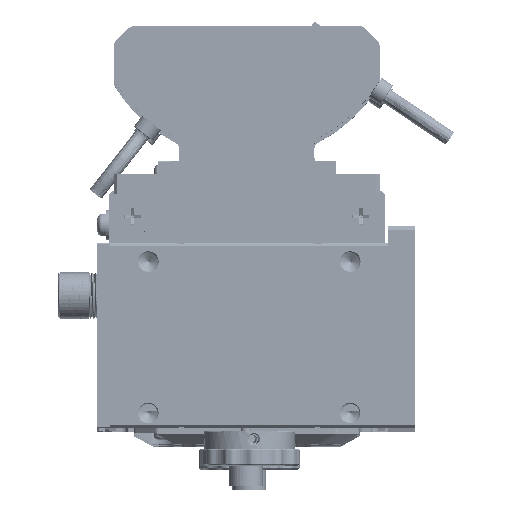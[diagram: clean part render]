
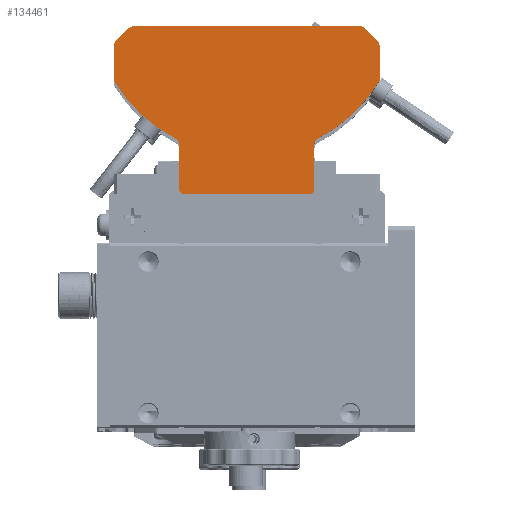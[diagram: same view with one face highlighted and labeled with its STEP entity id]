
A CAD part, top view. The second image highlights one B-rep face of the part: STEP entity #134461.
In plain terms, the highlighted planar face has unit normal (0, 0, 1) as drawn and (0, 1, 0) by its records, which use the part's own axes.
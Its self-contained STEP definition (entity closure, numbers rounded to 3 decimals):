
#132566=CARTESIAN_POINT('',(36.5,6.,18.757));
#132567=DIRECTION('',(0.,-1.,0.));
#132568=DIRECTION('',(1.,0.,0.));
#132569=AXIS2_PLACEMENT_3D('',#132566,#132567,#132568);
#132571=DIRECTION('',(-0.707,0.,0.707));
#132572=VECTOR('',#132571,4.586);
#132573=CARTESIAN_POINT('',(38.621,6.,20.879));
#132574=LINE('',#132573,#132572);
#132575=CARTESIAN_POINT('',(33.257,6.,22.));
#132576=DIRECTION('',(0.,-1.,0.));
#132577=DIRECTION('',(0.707,0.,0.707));
#132578=AXIS2_PLACEMENT_3D('',#132575,#132576,#132577);
#132580=CARTESIAN_POINT('',(-33.257,6.,22.));
#132581=DIRECTION('',(0.,-1.,0.));
#132582=DIRECTION('',(0.,0.,1.));
#132583=AXIS2_PLACEMENT_3D('',#132580,#132581,#132582);
#132585=DIRECTION('',(-0.707,0.,-0.707));
#132586=VECTOR('',#132585,4.586);
#132587=CARTESIAN_POINT('',(-35.379,6.,24.121));
#132588=LINE('',#132587,#132586);
#132589=CARTESIAN_POINT('',(-36.5,6.,18.757));
#132590=DIRECTION('',(0.,-1.,0.));
#132591=DIRECTION('',(-0.707,0.,0.707));
#132592=AXIS2_PLACEMENT_3D('',#132589,#132590,#132591);
#132594=CARTESIAN_POINT('',(0.,6.,32.4));
#132595=DIRECTION('',(0.,-1.,0.));
#132596=DIRECTION('',(-0.858,0.,-0.513));
#132597=AXIS2_PLACEMENT_3D('',#132594,#132595,#132596);
#132599=CARTESIAN_POINT('',(-22.097,6.,-10.234));
#132600=DIRECTION('',(0.,1.,0.));
#132601=DIRECTION('',(0.46,0.,0.888));
#132602=AXIS2_PLACEMENT_3D('',#132599,#132600,#132601);
#132604=DIRECTION('',(0.707,0.,-0.707));
#132605=VECTOR('',#132604,1.414);
#132606=CARTESIAN_POINT('',(-20.097,6.,-24.));
#132607=LINE('',#132606,#132605);
#132608=DIRECTION('',(0.707,0.,0.707));
#132609=VECTOR('',#132608,1.414);
#132610=CARTESIAN_POINT('',(19.097,6.,-25.));
#132611=LINE('',#132610,#132609);
#132612=CARTESIAN_POINT('',(22.097,6.,-10.234));
#132613=DIRECTION('',(0.,1.,0.));
#132614=DIRECTION('',(-1.,0.,0.));
#132615=AXIS2_PLACEMENT_3D('',#132612,#132613,#132614);
#132617=CARTESIAN_POINT('',(0.,6.,32.4));
#132618=DIRECTION('',(0.,-1.,0.));
#132619=DIRECTION('',(0.46,0.,-0.888));
#132620=AXIS2_PLACEMENT_3D('',#132617,#132618,#132619);
#132685=DIRECTION('',(0.,0.,-1.));
#132686=VECTOR('',#132685,9.971);
#132687=CARTESIAN_POINT('',(39.5,6.,18.757));
#132688=LINE('',#132687,#132686);
#132709=DIRECTION('',(0.,0.,-1.));
#132710=VECTOR('',#132709,13.766);
#132711=CARTESIAN_POINT('',(20.097,6.,-10.234));
#132712=LINE('',#132711,#132710);
#132794=DIRECTION('',(0.,0.,1.));
#132795=VECTOR('',#132794,13.766);
#132796=CARTESIAN_POINT('',(-20.097,6.,-24.));
#132797=LINE('',#132796,#132795);
#132839=DIRECTION('',(-1.,0.,0.));
#132840=VECTOR('',#132839,38.194);
#132841=CARTESIAN_POINT('',(19.097,6.,-25.));
#132842=LINE('',#132841,#132840);
#133267=DIRECTION('',(0.,0.,1.));
#133268=VECTOR('',#133267,9.971);
#133269=CARTESIAN_POINT('',(-39.5,6.,8.787));
#133270=LINE('',#133269,#133268);
#133287=DIRECTION('',(1.,0.,0.));
#133288=VECTOR('',#133287,66.515);
#133289=CARTESIAN_POINT('',(-33.257,6.,25.));
#133290=LINE('',#133289,#133288);
#134061=CARTESIAN_POINT('',(39.5,6.,18.757));
#134062=CARTESIAN_POINT('',(38.621,6.,20.879));
#134063=VERTEX_POINT('',#134061);
#134064=VERTEX_POINT('',#134062);
#134065=CARTESIAN_POINT('',(35.379,6.,24.121));
#134066=VERTEX_POINT('',#134065);
#134067=CARTESIAN_POINT('',(33.257,6.,25.));
#134068=VERTEX_POINT('',#134067);
#134069=CARTESIAN_POINT('',(-33.257,6.,25.));
#134070=VERTEX_POINT('',#134069);
#134071=CARTESIAN_POINT('',(-35.379,6.,24.121));
#134072=VERTEX_POINT('',#134071);
#134073=CARTESIAN_POINT('',(-38.621,6.,20.879));
#134074=VERTEX_POINT('',#134073);
#134075=CARTESIAN_POINT('',(-39.5,6.,18.757));
#134076=VERTEX_POINT('',#134075);
#134077=CARTESIAN_POINT('',(-39.5,6.,8.787));
#134078=VERTEX_POINT('',#134077);
#134079=CARTESIAN_POINT('',(-21.176,6.,-8.458));
#134080=VERTEX_POINT('',#134079);
#134081=CARTESIAN_POINT('',(-20.097,6.,-10.234));
#134082=VERTEX_POINT('',#134081);
#134083=CARTESIAN_POINT('',(-20.097,6.,-24.));
#134084=VERTEX_POINT('',#134083);
#134085=CARTESIAN_POINT('',(-19.097,6.,-25.));
#134086=VERTEX_POINT('',#134085);
#134087=CARTESIAN_POINT('',(19.097,6.,-25.));
#134088=VERTEX_POINT('',#134087);
#134089=CARTESIAN_POINT('',(20.097,6.,-24.));
#134090=VERTEX_POINT('',#134089);
#134091=CARTESIAN_POINT('',(20.097,6.,-10.234));
#134092=VERTEX_POINT('',#134091);
#134093=CARTESIAN_POINT('',(21.176,6.,-8.458));
#134094=VERTEX_POINT('',#134093);
#134095=CARTESIAN_POINT('',(39.5,6.,8.787));
#134096=VERTEX_POINT('',#134095);
#134418=CARTESIAN_POINT('',(0.,6.,0.));
#134419=DIRECTION('',(0.,1.,0.));
#134420=DIRECTION('',(1.,0.,0.));
#134421=AXIS2_PLACEMENT_3D('',#134418,#134419,#134420);
#134422=PLANE('',#134421);
#134424=ORIENTED_EDGE('',*,*,#134423,.T.);
#134426=ORIENTED_EDGE('',*,*,#134425,.T.);
#134428=ORIENTED_EDGE('',*,*,#134427,.T.);
#134430=ORIENTED_EDGE('',*,*,#134429,.F.);
#134432=ORIENTED_EDGE('',*,*,#134431,.T.);
#134434=ORIENTED_EDGE('',*,*,#134433,.T.);
#134436=ORIENTED_EDGE('',*,*,#134435,.T.);
#134438=ORIENTED_EDGE('',*,*,#134437,.F.);
#134440=ORIENTED_EDGE('',*,*,#134439,.T.);
#134442=ORIENTED_EDGE('',*,*,#134441,.T.);
#134444=ORIENTED_EDGE('',*,*,#134443,.F.);
#134446=ORIENTED_EDGE('',*,*,#134445,.T.);
#134448=ORIENTED_EDGE('',*,*,#134447,.F.);
#134450=ORIENTED_EDGE('',*,*,#134449,.T.);
#134452=ORIENTED_EDGE('',*,*,#134451,.F.);
#134454=ORIENTED_EDGE('',*,*,#134453,.T.);
#134456=ORIENTED_EDGE('',*,*,#134455,.T.);
#134458=ORIENTED_EDGE('',*,*,#134457,.F.);
#134459=EDGE_LOOP('',(#134424,#134426,#134428,#134430,#134432,#134434,#134436,
#134438,#134440,#134442,#134444,#134446,#134448,#134450,#134452,#134454,#134456,
#134458));
#134460=FACE_OUTER_BOUND('',#134459,.F.);
#134461=ADVANCED_FACE('',(#134460),#134422,.T.);
#132570=CIRCLE('',#132569,3.);
#132579=CIRCLE('',#132578,3.);
#132584=CIRCLE('',#132583,3.);
#132593=CIRCLE('',#132592,3.);
#132598=CIRCLE('',#132597,46.02);
#132603=CIRCLE('',#132602,2.);
#132616=CIRCLE('',#132615,2.);
#132621=CIRCLE('',#132620,46.02);
#134423=EDGE_CURVE('',#134063,#134064,#132570,.T.);
#134425=EDGE_CURVE('',#134064,#134066,#132574,.T.);
#134427=EDGE_CURVE('',#134066,#134068,#132579,.T.);
#134429=EDGE_CURVE('',#134070,#134068,#133290,.T.);
#134431=EDGE_CURVE('',#134070,#134072,#132584,.T.);
#134433=EDGE_CURVE('',#134072,#134074,#132588,.T.);
#134435=EDGE_CURVE('',#134074,#134076,#132593,.T.);
#134437=EDGE_CURVE('',#134078,#134076,#133270,.T.);
#134439=EDGE_CURVE('',#134078,#134080,#132598,.T.);
#134441=EDGE_CURVE('',#134080,#134082,#132603,.T.);
#134443=EDGE_CURVE('',#134084,#134082,#132797,.T.);
#134445=EDGE_CURVE('',#134084,#134086,#132607,.T.);
#134447=EDGE_CURVE('',#134088,#134086,#132842,.T.);
#134449=EDGE_CURVE('',#134088,#134090,#132611,.T.);
#134451=EDGE_CURVE('',#134092,#134090,#132712,.T.);
#134453=EDGE_CURVE('',#134092,#134094,#132616,.T.);
#134455=EDGE_CURVE('',#134094,#134096,#132621,.T.);
#134457=EDGE_CURVE('',#134063,#134096,#132688,.T.);
